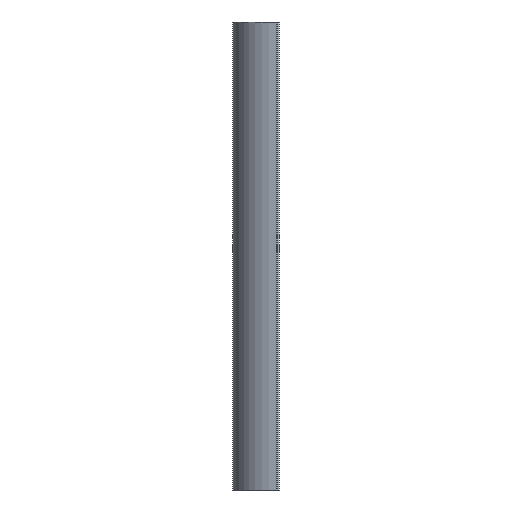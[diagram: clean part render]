
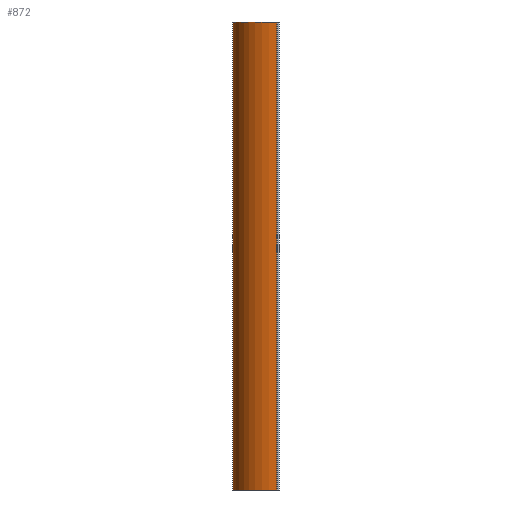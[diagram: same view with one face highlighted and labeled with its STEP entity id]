
A CAD part, left-side view. The second image highlights one B-rep face of the part: STEP entity #872.
In plain terms, the highlighted cylindrical face has radius 30 mm (diameter 60 mm), a partial arc.
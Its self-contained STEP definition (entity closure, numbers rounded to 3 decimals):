
#22 = CARTESIAN_POINT ( 'NONE',  ( -14.958, -13.421, 300. ) ) ;
#50 = DIRECTION ( 'NONE',  ( 0., 0., -1. ) ) ;
#102 = DIRECTION ( 'NONE',  ( 0., 0., 1. ) ) ;
#234 = DIRECTION ( 'NONE',  ( -1., 0., 0. ) ) ;
#351 = CARTESIAN_POINT ( 'NONE',  ( 13.421, 14.958, 300. ) ) ;
#412 = CARTESIAN_POINT ( 'NONE',  ( 15., -15., 300. ) ) ;
#453 = FACE_OUTER_BOUND ( 'NONE', #1102, .T. ) ;
#499 = DIRECTION ( 'NONE',  ( 1., 0., 0. ) ) ;
#525 = VERTEX_POINT ( 'NONE', #22 ) ;
#550 = DIRECTION ( 'NONE',  ( 0., 0., -1. ) ) ;
#557 = ORIENTED_EDGE ( 'NONE', *, *, #2418, .T. ) ;
#659 = LINE ( 'NONE', #351, #1617 ) ;
#784 = VERTEX_POINT ( 'NONE', #2691 ) ;
#786 = DIRECTION ( 'NONE',  ( 0., 0., 1. ) ) ;
#831 = CARTESIAN_POINT ( 'NONE',  ( 15., -15., 300. ) ) ;
#872 = ADVANCED_FACE ( 'NONE', ( #453 ), #1963, .T. ) ;
#905 = CARTESIAN_POINT ( 'NONE',  ( 13.421, 14.958, 0. ) ) ;
#1077 = CARTESIAN_POINT ( 'NONE',  ( 15., -15., 0. ) ) ;
#1091 = ORIENTED_EDGE ( 'NONE', *, *, #1961, .F. ) ;
#1102 = EDGE_LOOP ( 'NONE', ( #557, #1091, #1426, #2634 ) ) ;
#1227 = CIRCLE ( 'NONE', #2121, 30. ) ;
#1242 = AXIS2_PLACEMENT_3D ( 'NONE', #1077, #786, #499 ) ;
#1378 = EDGE_CURVE ( 'NONE', #1562, #525, #1227, .T. ) ;
#1426 = ORIENTED_EDGE ( 'NONE', *, *, #1378, .F. ) ;
#1562 = VERTEX_POINT ( 'NONE', #2453 ) ;
#1617 = VECTOR ( 'NONE', #50, 1000. ) ;
#1689 = CIRCLE ( 'NONE', #1242, 30. ) ;
#1785 = DIRECTION ( 'NONE',  ( 0., 0., -1. ) ) ;
#1961 = EDGE_CURVE ( 'NONE', #525, #784, #2353, .T. ) ;
#1963 = CYLINDRICAL_SURFACE ( 'NONE', #1998, 30. ) ;
#1998 = AXIS2_PLACEMENT_3D ( 'NONE', #831, #550, #234 ) ;
#2023 = EDGE_CURVE ( 'NONE', #1562, #2722, #659, .T. ) ;
#2055 = CARTESIAN_POINT ( 'NONE',  ( -14.958, -13.421, 300. ) ) ;
#2121 = AXIS2_PLACEMENT_3D ( 'NONE', #412, #102, #2651 ) ;
#2353 = LINE ( 'NONE', #2055, #2464 ) ;
#2418 = EDGE_CURVE ( 'NONE', #2722, #784, #1689, .T. ) ;
#2453 = CARTESIAN_POINT ( 'NONE',  ( 13.421, 14.958, 300. ) ) ;
#2464 = VECTOR ( 'NONE', #1785, 1000. ) ;
#2634 = ORIENTED_EDGE ( 'NONE', *, *, #2023, .T. ) ;
#2651 = DIRECTION ( 'NONE',  ( 1., 0., 0. ) ) ;
#2691 = CARTESIAN_POINT ( 'NONE',  ( -14.958, -13.421, 0. ) ) ;
#2722 = VERTEX_POINT ( 'NONE', #905 ) ;
